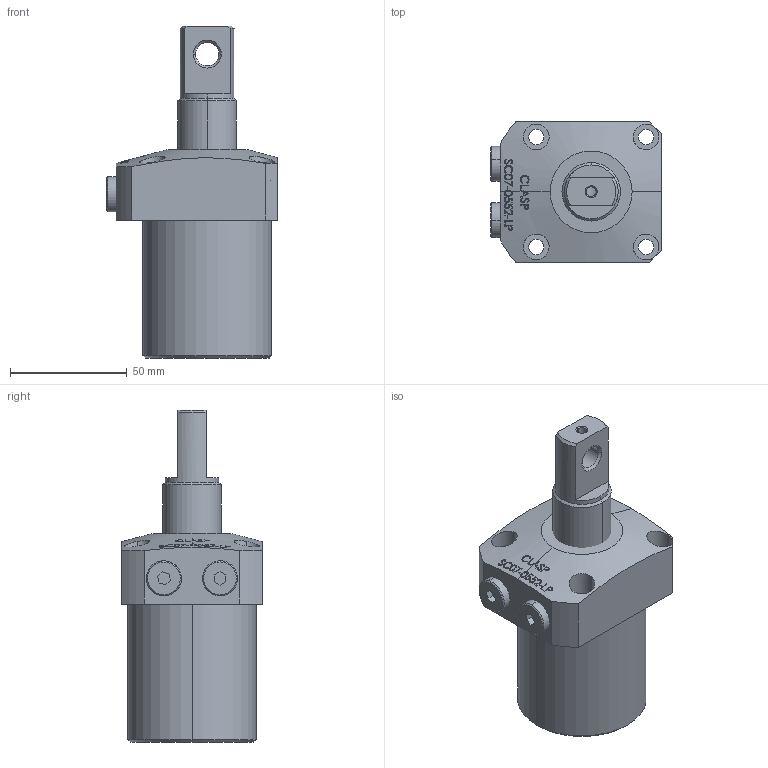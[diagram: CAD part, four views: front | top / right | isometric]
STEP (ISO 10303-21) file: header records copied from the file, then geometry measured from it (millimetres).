
FILE_DESCRIPTION (( 'STEP AP203' ), '1' );
FILE_NAME ('SC07-0552-LP.STEP', '2022-07-08T16:55:07', ( '' ), ( '' ), 'SwSTEP 2.0', 'SolidWorks 2017', '' );
FILE_SCHEMA (( 'CONFIG_CONTROL_DESIGN' ));
Length unit declared in the file: millimetre
Products named in the file (4): SC07-0552-LP; SC-07-0552-LP BODY; SC-07-0552-LP-Piston; SC-07-0552-LP-05 plug
Assembly tree (4 placements, depth 2):
  SC07-0552-LP
    SC-07-0552-LP BODY
    SC-07-0552-LP-Piston
    SC-07-0552-LP-05 plug  x2
Bounding box: 73 x 60 x 142 mm (x, y, z)
Volume: 275938.7 mm3; surface area: 37052.3 mm2
Topology: 4 solids, 4 shells, 322 faces, 812 edges, 534 vertices
Faces by surface type: plane 142, bspline 100, cylinder 50, cone 30
Entity records: 15408 total; most frequent: CARTESIAN_POINT 8322, ORIENTED_EDGE 1560, DIRECTION 1009, EDGE_CURVE 780, VERTEX_POINT 514, LINE 365, VECTOR 365, EDGE_LOOP 354
